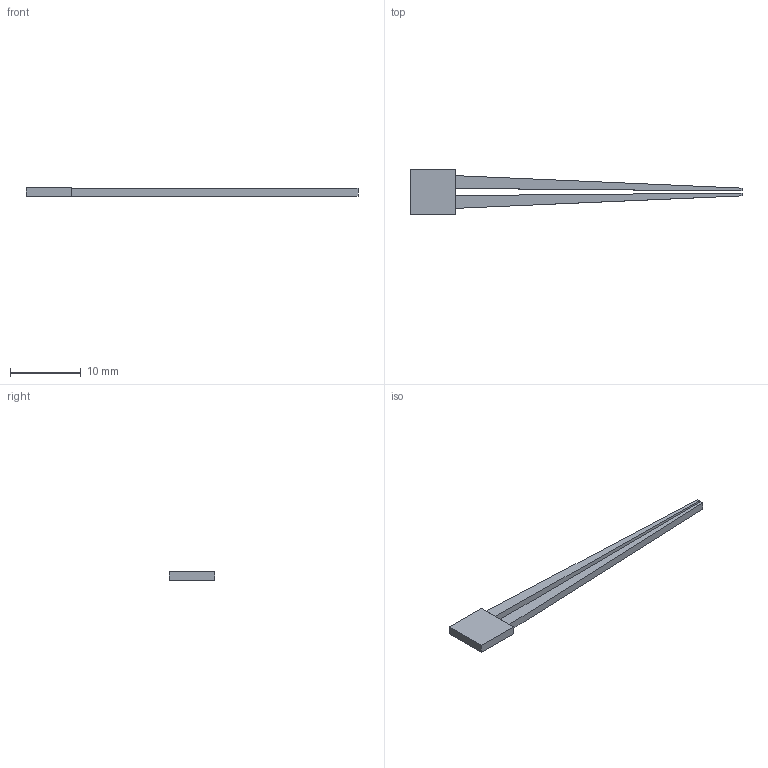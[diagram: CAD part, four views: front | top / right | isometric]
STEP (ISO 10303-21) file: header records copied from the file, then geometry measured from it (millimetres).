
FILE_DESCRIPTION(('Open CASCADE Model'),'2;1');
FILE_NAME('Open CASCADE Shape Model','2026-08-15T08:52:40',('Author'),( 'Open CASCADE'),'Open CASCADE STEP processor 7.9','Open CASCADE 7.9' ,'Unknown');
FILE_SCHEMA(('AUTOMOTIVE_DESIGN { 1 0 10303 214 1 1 1 1 }'));
Length unit declared in the file: millimetre
Products named in the file (1): Open CASCADE STEP translator 7.9 8
Bounding box: 46.8 x 6.4 x 1.2 mm (x, y, z)
Volume: 147.2 mm3; surface area: 465.6 mm2
Topology: 1 solids, 1 shells, 14 faces, 36 edges, 24 vertices
Faces by surface type: plane 14
Entity records: 886 total; most frequent: CARTESIAN_POINT 159, DIRECTION 126, LINE 96, VECTOR 96, ORIENTED_EDGE 72, PCURVE 72, DEFINITIONAL_REPRESENTATION 72, EDGE_CURVE 36
